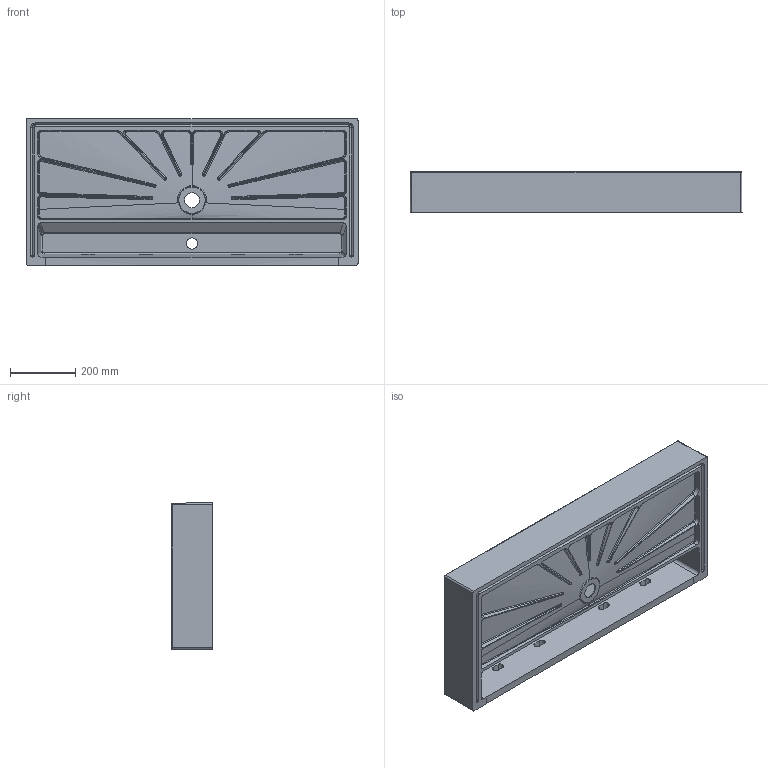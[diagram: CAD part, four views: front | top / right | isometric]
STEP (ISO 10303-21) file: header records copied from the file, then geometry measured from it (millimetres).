
FILE_DESCRIPTION (( 'STEP AP203' ), '1' );
FILE_NAME ('ELLP102450QM.STEP', '2019-01-21T17:15:43', ( '' ), ( '' ), 'SwSTEP 2.0', 'SolidWorks 2019', '' );
FILE_SCHEMA (( 'CONFIG_CONTROL_DESIGN' ));
Length unit declared in the file: millimetre
Products named in the file (1): ELLP102450QM
Bounding box: 1020 x 125 x 450 mm (x, y, z)
Volume: 15165502.2 mm3; surface area: 1726669.5 mm2
Topology: 1 solids, 1 shells, 318 faces, 813 edges, 494 vertices
Faces by surface type: bspline 124, cylinder 105, plane 67, torus 10, sphere 8, cone 4
Entity records: 26845 total; most frequent: CARTESIAN_POINT 20275, ORIENTED_EDGE 1614, DIRECTION 1047, EDGE_CURVE 807, VERTEX_POINT 494, AXIS2_PLACEMENT_3D 396, EDGE_LOOP 333, FACE_OUTER_BOUND 318
